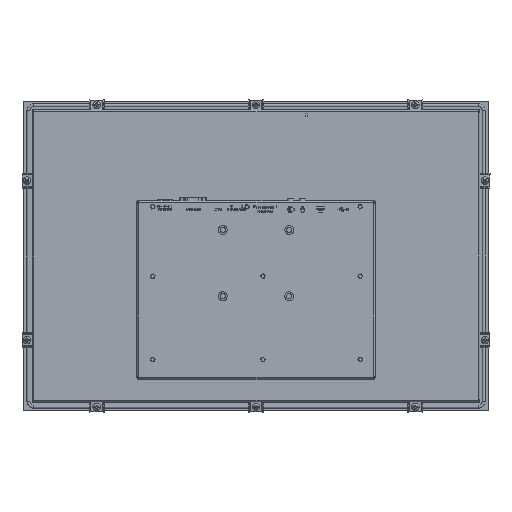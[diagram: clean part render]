
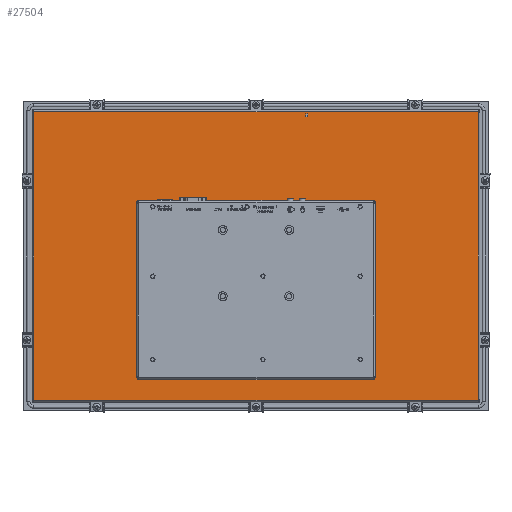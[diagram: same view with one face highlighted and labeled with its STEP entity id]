
A CAD part, front view. The second image highlights one B-rep face of the part: STEP entity #27504.
In plain terms, the highlighted planar face has unit normal (0, -1, 0).
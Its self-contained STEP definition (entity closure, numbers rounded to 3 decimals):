
#1455 = CARTESIAN_POINT ( 'NONE',  ( 98.125, -10.6, 103.077 ) ) ;
#1777 = DIRECTION ( 'NONE',  ( -0.707, 0., -0.707 ) ) ;
#2169 = DIRECTION ( 'NONE',  ( 0., 0., 1. ) ) ;
#4341 = VECTOR ( 'NONE', #31404, 1000. ) ;
#6883 = VECTOR ( 'NONE', #91376, 1000. ) ;
#8954 = ORIENTED_EDGE ( 'NONE', *, *, #129933, .T. ) ;
#11076 = CARTESIAN_POINT ( 'NONE',  ( -135.25, -10.6, -134.548 ) ) ;
#11894 = VERTEX_POINT ( 'NONE', #97220 ) ;
#12700 = ORIENTED_EDGE ( 'NONE', *, *, #130072, .T. ) ;
#13884 = CARTESIAN_POINT ( 'NONE',  ( 0., -10.6, 167.652 ) ) ;
#17222 = DIRECTION ( 'NONE',  ( 0., 0., 1. ) ) ;
#19332 = DIRECTION ( 'NONE',  ( 0.707, 0., -0.707 ) ) ;
#21836 = ORIENTED_EDGE ( 'NONE', *, *, #116082, .T. ) ;
#22411 = VERTEX_POINT ( 'NONE', #88777 ) ;
#22650 = VERTEX_POINT ( 'NONE', #128169 ) ;
#24601 = CARTESIAN_POINT ( 'NONE',  ( 133.25, -10.6, 67.952 ) ) ;
#25069 = DIRECTION ( 'NONE',  ( -1., 0., 0. ) ) ;
#25722 = VECTOR ( 'NONE', #19332, 1000. ) ;
#27131 = LINE ( 'NONE', #127002, #73198 ) ;
#27504 = ADVANCED_FACE ( 'NONE', ( #61425, #112069 ), #64017, .F. ) ;
#27690 = LINE ( 'NONE', #86079, #71440 ) ;
#28561 = LINE ( 'NONE', #79764, #106088 ) ;
#31404 = DIRECTION ( 'NONE',  ( 1., 0., 0. ) ) ;
#31820 = CARTESIAN_POINT ( 'NONE',  ( 250.7, -10.6, 4.952 ) ) ;
#32544 = DIRECTION ( 'NONE',  ( -1., 0., 0. ) ) ;
#33359 = LINE ( 'NONE', #101660, #96799 ) ;
#33997 = LINE ( 'NONE', #64176, #4341 ) ;
#34508 = EDGE_CURVE ( 'NONE', #80596, #73021, #75631, .T. ) ;
#34718 = VECTOR ( 'NONE', #103851, 1000. ) ;
#35557 = LINE ( 'NONE', #124295, #34718 ) ;
#36203 = ORIENTED_EDGE ( 'NONE', *, *, #80731, .T. ) ;
#37701 = CARTESIAN_POINT ( 'NONE',  ( -136.375, -10.6, -131.423 ) ) ;
#38351 = CARTESIAN_POINT ( 'NONE',  ( 135.25, -10.6, 65.952 ) ) ;
#40005 = DIRECTION ( 'NONE',  ( 0., 0., 1. ) ) ;
#40267 = ORIENTED_EDGE ( 'NONE', *, *, #112933, .T. ) ;
#40850 = LINE ( 'NONE', #110556, #6883 ) ;
#43494 = CARTESIAN_POINT ( 'NONE',  ( 250.7, -10.6, -156.777 ) ) ;
#44317 = VECTOR ( 'NONE', #2169, 1000. ) ;
#45315 = VERTEX_POINT ( 'NONE', #43494 ) ;
#45842 = ORIENTED_EDGE ( 'NONE', *, *, #80542, .T. ) ;
#45895 = EDGE_LOOP ( 'NONE', ( #84542, #12700, #88283, #8954, #63489, #45842, #72625, #93375 ) ) ;
#49907 = VERTEX_POINT ( 'NONE', #97423 ) ;
#50762 = CARTESIAN_POINT ( 'NONE',  ( 135.25, -10.6, -132.548 ) ) ;
#51146 = CARTESIAN_POINT ( 'NONE',  ( -133.25, -10.6, -134.548 ) ) ;
#51452 = VECTOR ( 'NONE', #109156, 1000. ) ;
#52415 = CARTESIAN_POINT ( 'NONE',  ( 250.7, -10.6, -157.748 ) ) ;
#54802 = LINE ( 'NONE', #73882, #56090 ) ;
#55958 = CARTESIAN_POINT ( 'NONE',  ( -250.7, -10.6, 167.652 ) ) ;
#56090 = VECTOR ( 'NONE', #83021, 1000. ) ;
#56871 = EDGE_CURVE ( 'NONE', #90062, #86200, #54802, .T. ) ;
#58553 = CARTESIAN_POINT ( 'NONE',  ( 250.7, -10.6, 4.952 ) ) ;
#59617 = VECTOR ( 'NONE', #25069, 1000. ) ;
#60727 = VECTOR ( 'NONE', #117241, 1000. ) ;
#60820 = AXIS2_PLACEMENT_3D ( 'NONE', #84339, #104066, #32544 ) ;
#61267 = LINE ( 'NONE', #120465, #66953 ) ;
#61371 = VECTOR ( 'NONE', #40005, 1000. ) ;
#61425 = FACE_OUTER_BOUND ( 'NONE', #64987, .T. ) ;
#62209 = ORIENTED_EDGE ( 'NONE', *, *, #98789, .T. ) ;
#62441 = VERTEX_POINT ( 'NONE', #52415 ) ;
#62823 = CARTESIAN_POINT ( 'NONE',  ( 133.25, -10.6, -134.548 ) ) ;
#63489 = ORIENTED_EDGE ( 'NONE', *, *, #122023, .T. ) ;
#64017 = PLANE ( 'NONE',  #60820 ) ;
#64176 = CARTESIAN_POINT ( 'NONE',  ( -135.25, -10.6, 67.952 ) ) ;
#64987 = EDGE_LOOP ( 'NONE', ( #67935, #125743, #110092, #36203, #73823, #62209, #21836, #40267 ) ) ;
#66237 = VERTEX_POINT ( 'NONE', #62823 ) ;
#66953 = VECTOR ( 'NONE', #68602, 1000. ) ;
#67682 = CARTESIAN_POINT ( 'NONE',  ( -135.25, -10.6, -132.548 ) ) ;
#67935 = ORIENTED_EDGE ( 'NONE', *, *, #92277, .T. ) ;
#68555 = VERTEX_POINT ( 'NONE', #67682 ) ;
#68602 = DIRECTION ( 'NONE',  ( 0.707, 0., 0.707 ) ) ;
#71224 = DIRECTION ( 'NONE',  ( 0., 0., -1. ) ) ;
#71440 = VECTOR ( 'NONE', #76948, 1000. ) ;
#71832 = LINE ( 'NONE', #1455, #25722 ) ;
#72574 = EDGE_CURVE ( 'NONE', #22650, #100500, #33997, .T. ) ;
#72625 = ORIENTED_EDGE ( 'NONE', *, *, #105545, .T. ) ;
#73021 = VERTEX_POINT ( 'NONE', #55958 ) ;
#73198 = VECTOR ( 'NONE', #117128, 1000. ) ;
#73823 = ORIENTED_EDGE ( 'NONE', *, *, #34508, .T. ) ;
#73882 = CARTESIAN_POINT ( 'NONE',  ( 135.25, -10.6, -134.548 ) ) ;
#75035 = LINE ( 'NONE', #78283, #51452 ) ;
#75631 = LINE ( 'NONE', #13884, #59617 ) ;
#76948 = DIRECTION ( 'NONE',  ( 1., 0., 0. ) ) ;
#77792 = LINE ( 'NONE', #37701, #60727 ) ;
#78283 = CARTESIAN_POINT ( 'NONE',  ( -135.25, -10.6, -134.548 ) ) ;
#79764 = CARTESIAN_POINT ( 'NONE',  ( -250.7, -10.6, 4.952 ) ) ;
#80542 = EDGE_CURVE ( 'NONE', #118171, #68555, #77792, .T. ) ;
#80596 = VERTEX_POINT ( 'NONE', #111913 ) ;
#80731 = EDGE_CURVE ( 'NONE', #22411, #80596, #128247, .T. ) ;
#83021 = DIRECTION ( 'NONE',  ( 0., 0., -1. ) ) ;
#84339 = CARTESIAN_POINT ( 'NONE',  ( 0., -10.6, 4.952 ) ) ;
#84542 = ORIENTED_EDGE ( 'NONE', *, *, #72574, .T. ) ;
#86079 = CARTESIAN_POINT ( 'NONE',  ( 0., -10.6, -157.748 ) ) ;
#86200 = VERTEX_POINT ( 'NONE', #50762 ) ;
#88283 = ORIENTED_EDGE ( 'NONE', *, *, #56871, .T. ) ;
#88777 = CARTESIAN_POINT ( 'NONE',  ( 250.7, -10.6, 166.681 ) ) ;
#90062 = VERTEX_POINT ( 'NONE', #38351 ) ;
#90149 = EDGE_CURVE ( 'NONE', #97348, #22650, #61267, .T. ) ;
#91376 = DIRECTION ( 'NONE',  ( 0., 0., -1. ) ) ;
#92147 = VERTEX_POINT ( 'NONE', #104520 ) ;
#92176 = VECTOR ( 'NONE', #17222, 1000. ) ;
#92277 = EDGE_CURVE ( 'NONE', #49907, #62441, #27690, .T. ) ;
#93375 = ORIENTED_EDGE ( 'NONE', *, *, #90149, .T. ) ;
#96799 = VECTOR ( 'NONE', #1777, 1000. ) ;
#97220 = CARTESIAN_POINT ( 'NONE',  ( -250.7, -10.6, 166.681 ) ) ;
#97348 = VERTEX_POINT ( 'NONE', #120179 ) ;
#97423 = CARTESIAN_POINT ( 'NONE',  ( -250.7, -10.6, -157.748 ) ) ;
#98789 = EDGE_CURVE ( 'NONE', #73021, #11894, #28561, .T. ) ;
#99655 = EDGE_CURVE ( 'NONE', #62441, #45315, #35557, .T. ) ;
#100500 = VERTEX_POINT ( 'NONE', #24601 ) ;
#101397 = LINE ( 'NONE', #31820, #44317 ) ;
#101660 = CARTESIAN_POINT ( 'NONE',  ( 136.375, -10.6, -131.423 ) ) ;
#103851 = DIRECTION ( 'NONE',  ( 0., 0., 1. ) ) ;
#104066 = DIRECTION ( 'NONE',  ( 0., 1., 0. ) ) ;
#104520 = CARTESIAN_POINT ( 'NONE',  ( -250.7, -10.6, -156.777 ) ) ;
#105545 = EDGE_CURVE ( 'NONE', #68555, #97348, #129448, .T. ) ;
#106088 = VECTOR ( 'NONE', #71224, 1000. ) ;
#109156 = DIRECTION ( 'NONE',  ( -1., 0., 0. ) ) ;
#110092 = ORIENTED_EDGE ( 'NONE', *, *, #110311, .T. ) ;
#110311 = EDGE_CURVE ( 'NONE', #45315, #22411, #101397, .T. ) ;
#110556 = CARTESIAN_POINT ( 'NONE',  ( -250.7, -10.6, 4.952 ) ) ;
#111913 = CARTESIAN_POINT ( 'NONE',  ( 250.7, -10.6, 167.652 ) ) ;
#112069 = FACE_BOUND ( 'NONE', #45895, .T. ) ;
#112933 = EDGE_CURVE ( 'NONE', #92147, #49907, #40850, .T. ) ;
#116082 = EDGE_CURVE ( 'NONE', #11894, #92147, #27131, .T. ) ;
#117128 = DIRECTION ( 'NONE',  ( 0., 0., -1. ) ) ;
#117241 = DIRECTION ( 'NONE',  ( -0.707, 0., 0.707 ) ) ;
#118171 = VERTEX_POINT ( 'NONE', #51146 ) ;
#120179 = CARTESIAN_POINT ( 'NONE',  ( -135.25, -10.6, 65.952 ) ) ;
#120465 = CARTESIAN_POINT ( 'NONE',  ( -98.125, -10.6, 103.077 ) ) ;
#122023 = EDGE_CURVE ( 'NONE', #66237, #118171, #75035, .T. ) ;
#124295 = CARTESIAN_POINT ( 'NONE',  ( 250.7, -10.6, 4.952 ) ) ;
#125743 = ORIENTED_EDGE ( 'NONE', *, *, #99655, .T. ) ;
#127002 = CARTESIAN_POINT ( 'NONE',  ( -250.7, -10.6, 4.952 ) ) ;
#128169 = CARTESIAN_POINT ( 'NONE',  ( -133.25, -10.6, 67.952 ) ) ;
#128247 = LINE ( 'NONE', #58553, #92176 ) ;
#129448 = LINE ( 'NONE', #11076, #61371 ) ;
#129933 = EDGE_CURVE ( 'NONE', #86200, #66237, #33359, .T. ) ;
#130072 = EDGE_CURVE ( 'NONE', #100500, #90062, #71832, .T. ) ;
